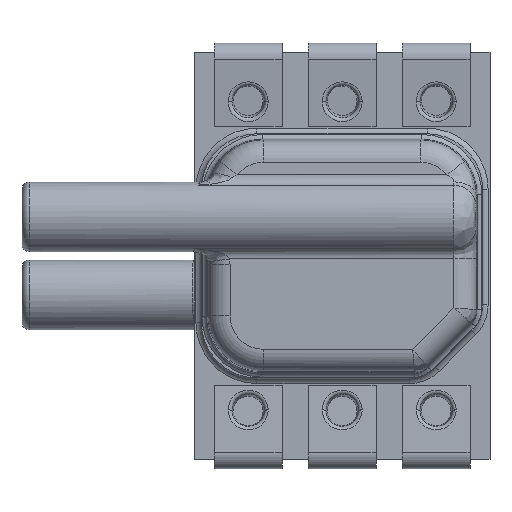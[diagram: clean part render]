
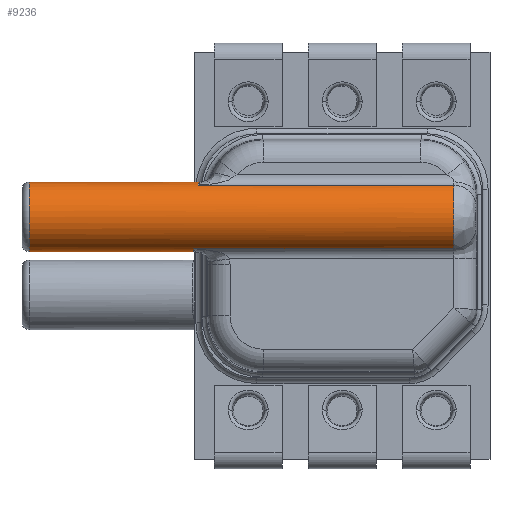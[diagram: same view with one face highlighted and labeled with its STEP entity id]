
A CAD part, top view. The second image highlights one B-rep face of the part: STEP entity #9236.
In plain terms, the highlighted cylindrical face has radius 0.94 mm (diameter 1.88 mm), a partial arc.
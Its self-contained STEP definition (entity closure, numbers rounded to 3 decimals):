
#980=DIRECTION('',(-1.,0.,0.));
#981=VECTOR('',#980,6.907);
#982=CARTESIAN_POINT('',(31.017,-31.09,2.539));
#983=LINE('',#982,#981);
#1007=CARTESIAN_POINT('',(23.99,-32.81,2.539));
#1008=CARTESIAN_POINT('',(23.987,-32.863,2.42));
#1009=CARTESIAN_POINT('',(23.984,-32.89,2.29));
#1010=CARTESIAN_POINT('',(23.98,-32.89,2.16));
#1012=DIRECTION('',(-1.,0.,0.));
#1013=VECTOR('',#1012,4.43);
#1014=CARTESIAN_POINT('',(23.98,-32.89,2.16));
#1015=LINE('',#1014,#1013);
#1016=DIRECTION('',(1.,0.,0.));
#1017=VECTOR('',#1016,4.594);
#1018=CARTESIAN_POINT('',(19.55,-31.01,2.16));
#1019=LINE('',#1018,#1017);
#1020=DIRECTION('',(1.,0.,0.));
#1021=VECTOR('',#1020,7.027);
#1022=CARTESIAN_POINT('',(23.99,-32.81,2.539));
#1023=LINE('',#1022,#1021);
#1035=CARTESIAN_POINT('',(31.017,-32.81,2.539));
#1036=CARTESIAN_POINT('',(31.017,-32.784,2.599));
#1037=CARTESIAN_POINT('',(31.016,-32.718,2.714));
#1038=CARTESIAN_POINT('',(31.015,-32.586,2.862));
#1039=CARTESIAN_POINT('',(31.014,-32.425,2.979));
#1040=CARTESIAN_POINT('',(31.014,-32.244,3.06));
#1041=CARTESIAN_POINT('',(31.013,-32.049,3.102));
#1042=CARTESIAN_POINT('',(31.013,-31.851,3.102));
#1043=CARTESIAN_POINT('',(31.014,-31.656,3.06));
#1044=CARTESIAN_POINT('',(31.014,-31.475,2.979));
#1045=CARTESIAN_POINT('',(31.015,-31.314,2.862));
#1046=CARTESIAN_POINT('',(31.016,-31.182,2.714));
#1047=CARTESIAN_POINT('',(31.017,-31.116,2.599));
#1048=CARTESIAN_POINT('',(31.017,-31.09,2.539));
#1219=CARTESIAN_POINT('',(24.11,-31.09,2.539));
#1220=CARTESIAN_POINT('',(24.119,-31.07,2.494));
#1221=CARTESIAN_POINT('',(24.134,-31.039,2.404));
#1222=CARTESIAN_POINT('',(24.144,-31.017,2.295));
#1223=CARTESIAN_POINT('',(24.145,-31.01,2.205));
#1224=CARTESIAN_POINT('',(24.144,-31.01,2.16));
#1318=CARTESIAN_POINT('',(24.144,-31.01,2.16));
#1320=CARTESIAN_POINT('',(19.55,-31.95,2.16));
#1321=DIRECTION('',(1.,0.,0.));
#1322=DIRECTION('',(0.,1.,0.));
#1323=AXIS2_PLACEMENT_3D('',#1320,#1321,#1322);
#6504=CARTESIAN_POINT('',(19.55,-32.89,2.16));
#6505=VERTEX_POINT('',#6504);
#6506=CARTESIAN_POINT('',(19.55,-31.01,2.16));
#6507=VERTEX_POINT('',#6506);
#6508=CARTESIAN_POINT('',(23.98,-32.89,2.16));
#6509=VERTEX_POINT('',#6508);
#6511=VERTEX_POINT('',#1318);
#6512=CARTESIAN_POINT('',(23.99,-32.81,2.539));
#6513=CARTESIAN_POINT('',(31.017,-32.81,2.539));
#6514=VERTEX_POINT('',#6512);
#6515=VERTEX_POINT('',#6513);
#6516=VERTEX_POINT('',#1219);
#6517=CARTESIAN_POINT('',(31.017,-31.09,2.539));
#6518=VERTEX_POINT('',#6517);
#9214=CARTESIAN_POINT('',(31.246,-31.95,2.16));
#9215=DIRECTION('',(-1.,0.,0.));
#9216=DIRECTION('',(0.,1.,0.));
#9217=AXIS2_PLACEMENT_3D('',#9214,#9215,#9216);
#9218=CYLINDRICAL_SURFACE('',#9217,0.94);
#9220=ORIENTED_EDGE('',*,*,#9219,.F.);
#9222=ORIENTED_EDGE('',*,*,#9221,.T.);
#9224=ORIENTED_EDGE('',*,*,#9223,.T.);
#9226=ORIENTED_EDGE('',*,*,#9225,.F.);
#9228=ORIENTED_EDGE('',*,*,#9227,.T.);
#9230=ORIENTED_EDGE('',*,*,#9229,.F.);
#9231=ORIENTED_EDGE('',*,*,#9198,.F.);
#9233=ORIENTED_EDGE('',*,*,#9232,.F.);
#9234=EDGE_LOOP('',(#9220,#9222,#9224,#9226,#9228,#9230,#9231,#9233));
#9235=FACE_OUTER_BOUND('',#9234,.F.);
#9236=ADVANCED_FACE('',(#9235),#9218,.T.);
#1011=B_SPLINE_CURVE_WITH_KNOTS('',3,(#1007,#1008,#1009,#1010),.UNSPECIFIED.,
.F.,.F.,(4,4),(0.,1.),.UNSPECIFIED.);
#1049=B_SPLINE_CURVE_WITH_KNOTS('',3,(#1035,#1036,#1037,#1038,#1039,#1040,#1041,
#1042,#1043,#1044,#1045,#1046,#1047,#1048),.UNSPECIFIED.,.F.,.F.,(4,1,1,1,1,1,1,
1,1,1,1,4),(0.,0.091,0.182,0.273,
0.364,0.455,0.545,0.636,
0.727,0.818,0.909,1.),.UNSPECIFIED.);
#1225=B_SPLINE_CURVE_WITH_KNOTS('',3,(#1219,#1220,#1221,#1222,#1223,#1224),
.UNSPECIFIED.,.F.,.F.,(4,1,1,4),(0.,0.333,0.667,1.),
.UNSPECIFIED.);
#1324=CIRCLE('',#1323,0.94);
#9198=EDGE_CURVE('',#6518,#6516,#983,.T.);
#9219=EDGE_CURVE('',#6514,#6515,#1023,.T.);
#9221=EDGE_CURVE('',#6514,#6509,#1011,.T.);
#9223=EDGE_CURVE('',#6509,#6505,#1015,.T.);
#9225=EDGE_CURVE('',#6507,#6505,#1324,.T.);
#9227=EDGE_CURVE('',#6507,#6511,#1019,.T.);
#9229=EDGE_CURVE('',#6516,#6511,#1225,.T.);
#9232=EDGE_CURVE('',#6515,#6518,#1049,.T.);
